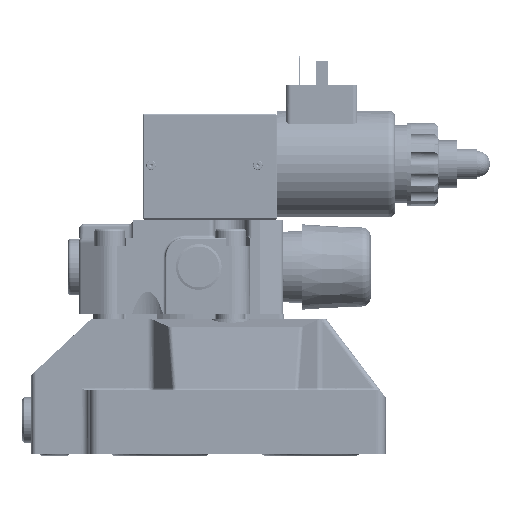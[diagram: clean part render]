
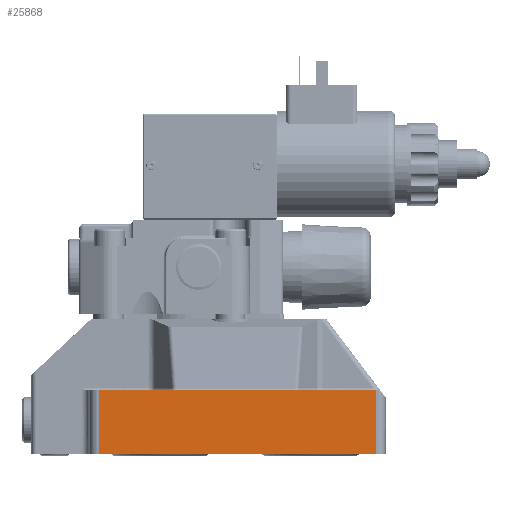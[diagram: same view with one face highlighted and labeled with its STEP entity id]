
A CAD part, front view. The second image highlights one B-rep face of the part: STEP entity #25868.
In plain terms, the highlighted planar face has unit normal (0, -1, 0).
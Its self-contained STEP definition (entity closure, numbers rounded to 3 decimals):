
#1639=FACE_OUTER_BOUND('',#9397,.T.);
#3189=PLANE('',#32480);
#4263=LINE('',#162505,#5651);
#4367=LINE('',#164657,#5758);
#4380=LINE('',#164743,#5771);
#4381=LINE('',#164744,#5772);
#5651=VECTOR('',#38080,1.);
#5758=VECTOR('',#38433,1.);
#5771=VECTOR('',#38510,1.);
#5772=VECTOR('',#38511,1.);
#9397=EDGE_LOOP('',(#15838,#15839,#15840,#15841));
#15838=ORIENTED_EDGE('',*,*,#20446,.T.);
#15839=ORIENTED_EDGE('',*,*,#20483,.T.);
#15840=ORIENTED_EDGE('',*,*,#20176,.F.);
#15841=ORIENTED_EDGE('',*,*,#20484,.T.);
#20176=EDGE_CURVE('',#29687,#29688,#4263,.T.);
#20446=EDGE_CURVE('',#29944,#29943,#4367,.T.);
#20483=EDGE_CURVE('',#29943,#29688,#4380,.T.);
#20484=EDGE_CURVE('',#29687,#29944,#4381,.T.);
#25868=ADVANCED_FACE('',(#1639),#3189,.T.);
#29687=VERTEX_POINT('',#162506);
#29688=VERTEX_POINT('',#162507);
#29943=VERTEX_POINT('',#164656);
#29944=VERTEX_POINT('',#164658);
#32480=AXIS2_PLACEMENT_3D('',#164745,#38512,#38513);
#38080=DIRECTION('',(1.,0.,0.));
#38433=DIRECTION('',(1.,0.,0.));
#38510=DIRECTION('',(0.,0.,1.));
#38511=DIRECTION('',(0.,0.,-1.));
#38512=DIRECTION('',(0.,-1.,0.));
#38513=DIRECTION('',(-1.,0.,0.));
#162505=CARTESIAN_POINT('',(666.667,-7.336,11.631));
#162506=CARTESIAN_POINT('',(545.867,-7.336,11.631));
#162507=CARTESIAN_POINT('',(662.667,-7.336,11.631));
#164656=CARTESIAN_POINT('',(662.667,-7.333,-15.369));
#164657=CARTESIAN_POINT('',(666.667,-7.333,-15.369));
#164658=CARTESIAN_POINT('',(545.867,-7.333,-15.369));
#164743=CARTESIAN_POINT('',(662.667,-7.336,8.656));
#164744=CARTESIAN_POINT('',(545.867,-7.333,-15.369));
#164745=CARTESIAN_POINT('',(666.667,-7.333,-15.369));
